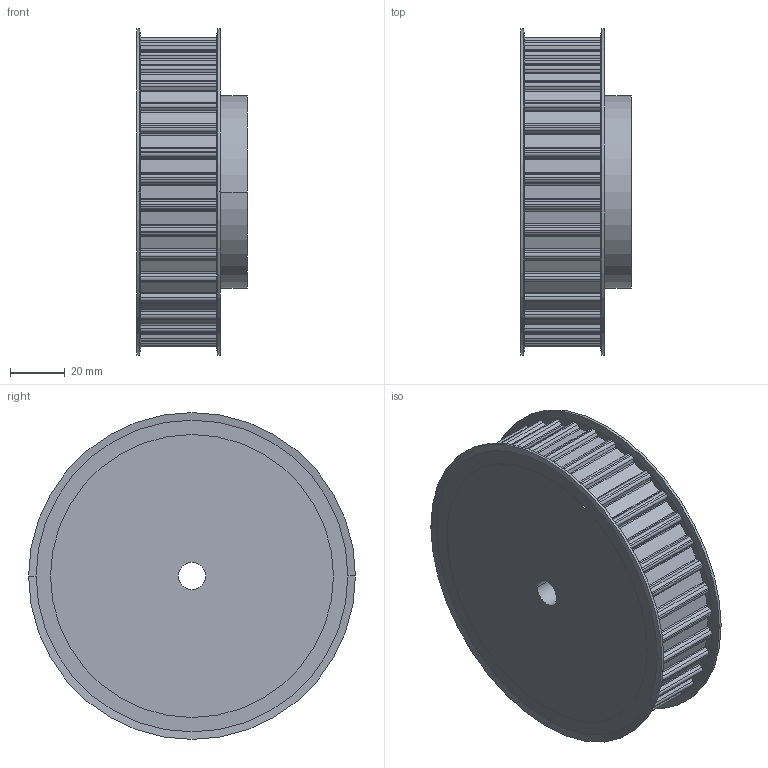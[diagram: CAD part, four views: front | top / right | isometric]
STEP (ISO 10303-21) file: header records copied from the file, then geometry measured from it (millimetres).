
FILE_DESCRIPTION( ( '' ), '1' );
FILE_NAME( 'C:/Users/Stangenbergd/Documents/CAD_Step/1/16833600.stp', '2021-10-19T09:45:58', ( '' ), ( '' ), ' ', ' ', ' ' );
FILE_SCHEMA( ( 'CONFIG_CONTROL_DESIGN' ) );
Length unit declared in the file: millimetre
Products named in the file (1): 1
Bounding box: 40.24 x 119 x 119 mm (x, y, z)
Volume: 321632 mm3; surface area: 41871.9 mm2
Topology: 1 solids, 1 shells, 315 faces, 916 edges, 608 vertices
Faces by surface type: cylinder 192, plane 115, cone 8
Entity records: 10606 total; most frequent: DIRECTION 1940, CARTESIAN_POINT 1840, ORIENTED_EDGE 1832, EDGE_CURVE 916, AXIS2_PLACEMENT_3D 708, VERTEX_POINT 608, LINE 524, VECTOR 524
